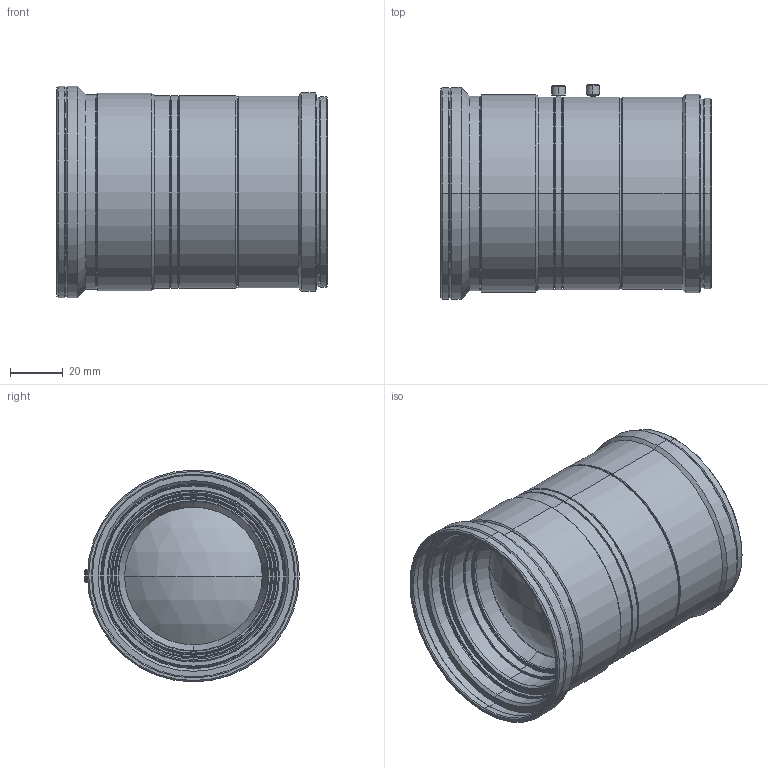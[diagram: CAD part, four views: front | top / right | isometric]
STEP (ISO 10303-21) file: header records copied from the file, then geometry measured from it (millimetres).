
FILE_DESCRIPTION (( 'STEP AP203' ), '1' );
FILE_NAME ('VS-L8528LM_M72.STEP', '2016-11-10T06:16:10', ( 'miura_vst' ), ( '' ), 'SwSTEP 2.0', 'SolidWorks 2016', '' );
FILE_SCHEMA (( 'CONFIG_CONTROL_DESIGN' ));
Length unit declared in the file: millimetre
Products named in the file (1): VS-L8528LM_M72
Bounding box: 102.2 x 81.05 x 80 mm (x, y, z)
Volume: 252549.2 mm3; surface area: 57429.2 mm2
Topology: 1 solids, 1 shells, 237 faces, 476 edges, 276 vertices
Faces by surface type: cone 126, cylinder 72, plane 35, sphere 4
Entity records: 6263 total; most frequent: DIRECTION 1222, CARTESIAN_POINT 1052, ORIENTED_EDGE 952, AXIS2_PLACEMENT_3D 512, EDGE_CURVE 476, VERTEX_POINT 276, CIRCLE 274, EDGE_LOOP 272
